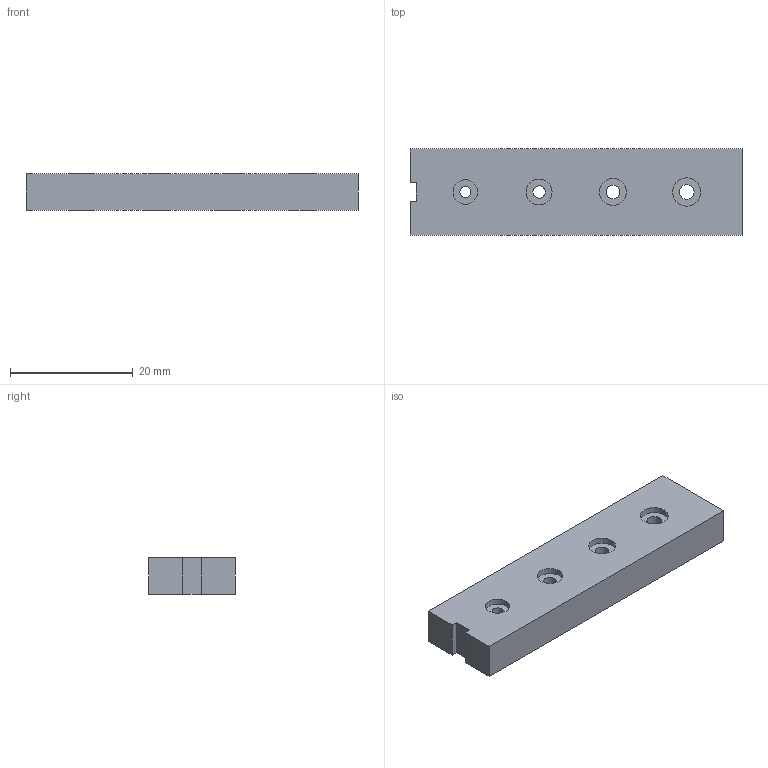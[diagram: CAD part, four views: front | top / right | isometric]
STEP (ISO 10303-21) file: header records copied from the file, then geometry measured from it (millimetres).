
FILE_DESCRIPTION(('Open CASCADE Model'),'2;1');
FILE_NAME('Open CASCADE Shape Model','2026-09-25T05:27:18',('Author'),( 'Open CASCADE'),'Open CASCADE STEP processor 7.8','Open CASCADE 7.8' ,'Unknown');
FILE_SCHEMA(('AUTOMOTIVE_DESIGN { 1 0 10303 214 1 1 1 1 }'));
Length unit declared in the file: millimetre
Products named in the file (1): Open CASCADE STEP translator 7.8 4
Bounding box: 54 x 14 x 6 mm (x, y, z)
Volume: 4346.2 mm3; surface area: 2524.9 mm2
Topology: 1 solids, 1 shells, 50 faces, 120 edges, 80 vertices
Faces by surface type: plane 42, cylinder 8
Full cylindrical faces by diameter (mm): 1.8 x1, 2 x1, 2.2 x1, 2.4 x1, 4 x1, 4.2 x1, 4.4 x1, 4.6 x1
Entity records: 3034 total; most frequent: CARTESIAN_POINT 555, DIRECTION 454, LINE 312, VECTOR 312, ORIENTED_EDGE 240, PCURVE 240, DEFINITIONAL_REPRESENTATION 240, EDGE_CURVE 120
